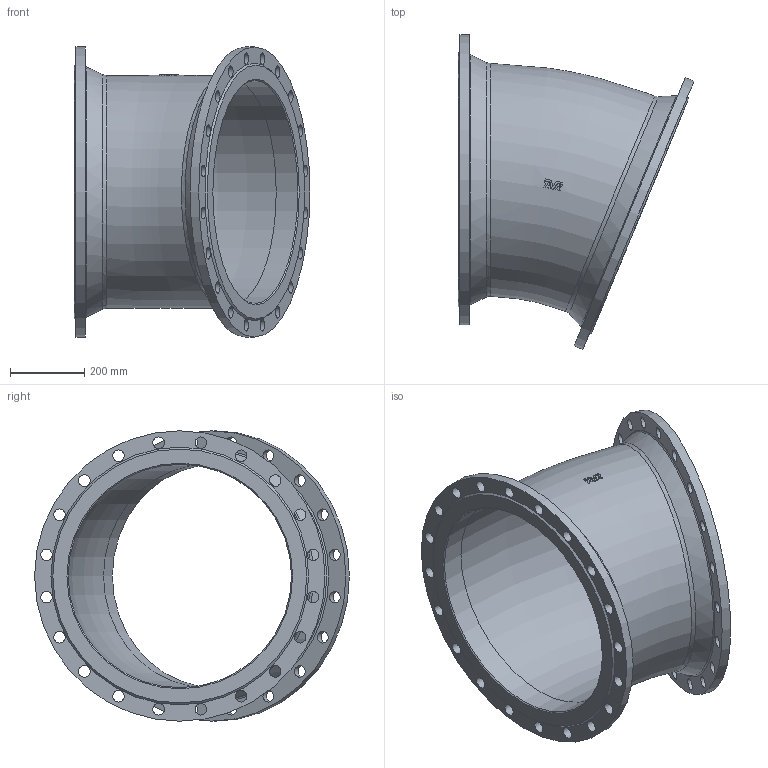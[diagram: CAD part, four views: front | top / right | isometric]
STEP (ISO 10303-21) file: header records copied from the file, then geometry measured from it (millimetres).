
FILE_DESCRIPTION (( 'STEP AP203' ), '1' );
FILE_NAME ('O_712_0210_DN600_0X_REV01.step', '2024-08-15T12:31:20', ( '' ), ( '' ), 'SwSTEP 2.0', 'SolidWorks 2022', '' );
FILE_SCHEMA (( 'CONFIG_CONTROL_DESIGN' ));
Length unit declared in the file: millimetre
Products named in the file (1): O_712_0210_DN600_0X_REV01
Bounding box: 633.29 x 845.6 x 780 mm (x, y, z)
Volume: 23630410.3 mm3; surface area: 2640104.4 mm2
Topology: 1 solids, 1 shells, 103 faces, 297 edges, 204 vertices
Faces by surface type: cylinder 46, plane 41, torus 8, cone 6, bspline 2
Full cylindrical faces by diameter (mm): 31 x40, 600 x2, 780 x2
Entity records: 5381 total; most frequent: CARTESIAN_POINT 2896, DIRECTION 437, ORIENTED_EDGE 426, EDGE_LOOP 249, EDGE_CURVE 213, AXIS2_PLACEMENT_3D 200, VERTEX_POINT 176, FACE_OUTER_BOUND 153
